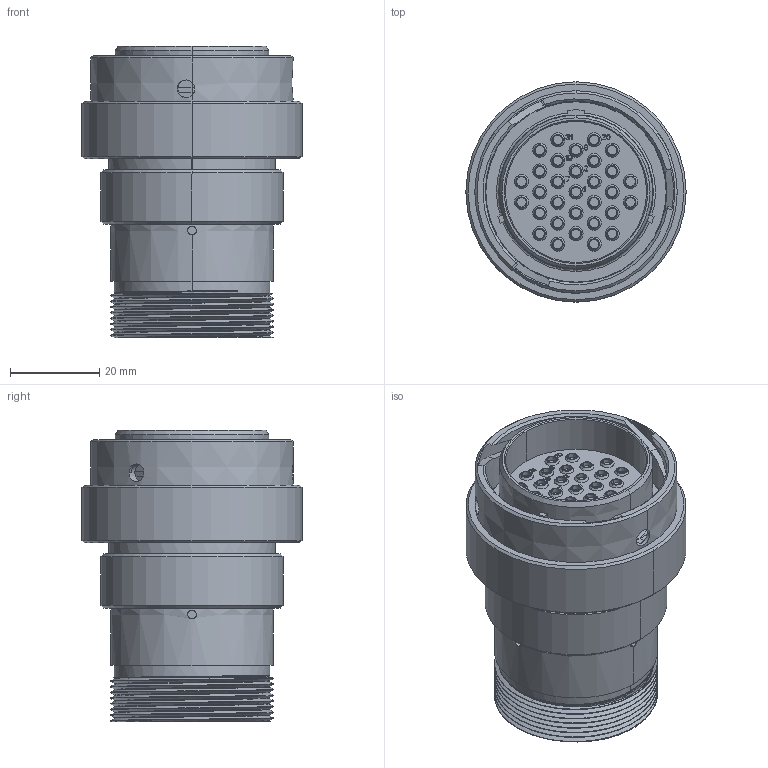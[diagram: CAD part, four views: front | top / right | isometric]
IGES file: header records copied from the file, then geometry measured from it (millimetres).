
Start section:  PTC IGES file: c-hd36-24-31pt-072-99-3d.igs
Global section: file name: c-hd36-24-31pt-072-99-3d.igs; native system: Pro/ENGINEER by Parametric Technology Corporation; preprocessor: 2011490; author: workeradm; organization: Unknown; units: millimetre
Bounding box: 49.33 x 49.33 x 65.28 mm (x, y, z)
Surface area: 24197.3 mm2 (no closed solid volume)
Topology: 0 solids, 0 shells, 1020 faces, 4862 edges, 4862 vertices
Faces by surface type: bspline 536, revolution 478, extrusion 6
